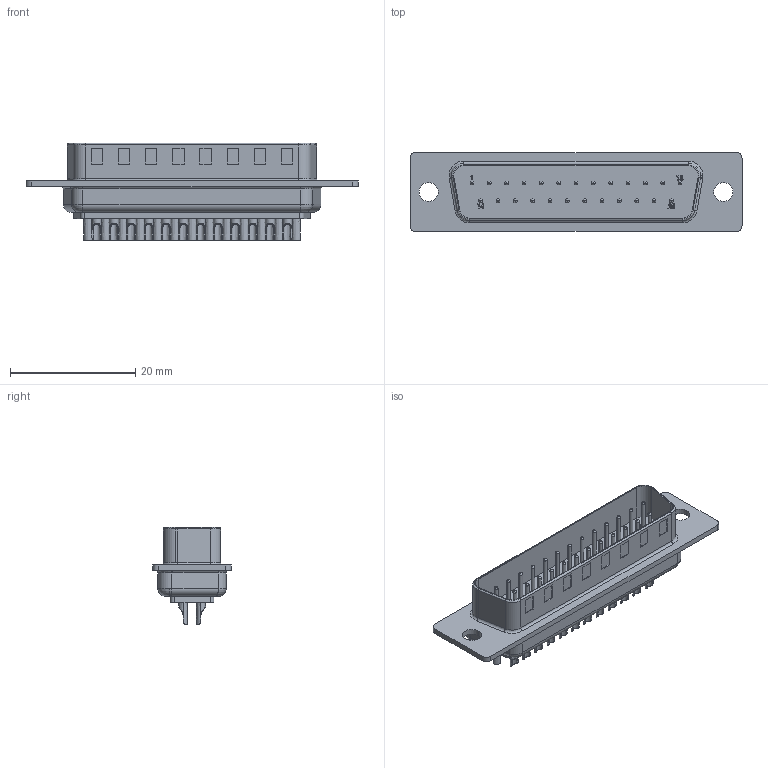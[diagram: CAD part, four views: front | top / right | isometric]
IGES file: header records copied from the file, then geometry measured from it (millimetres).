
Global section: file name: Filename.iges; native system: Open CASCADE 7.3; preprocessor: Open CASCADE IGES processor 7.3; date: 20201223.080450; units: millimetre
Bounding box: 53 x 12.6 x 15.52 mm (x, y, z)
Surface area: 3883.8 mm2 (no closed solid volume)
Topology: 0 solids, 0 shells, 822 faces, 3958 edges, 3958 vertices
Faces by surface type: revolution 385, plane 383, bspline 54
